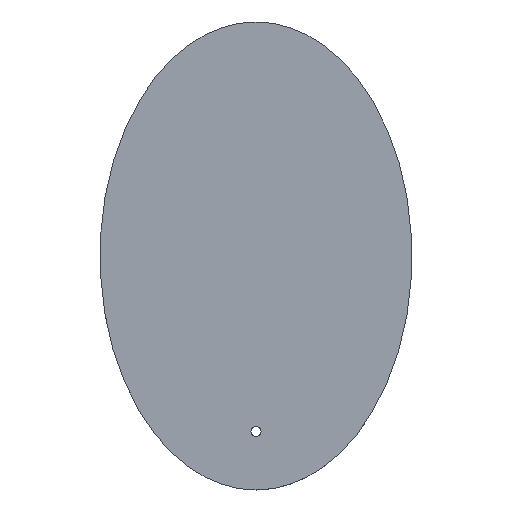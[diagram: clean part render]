
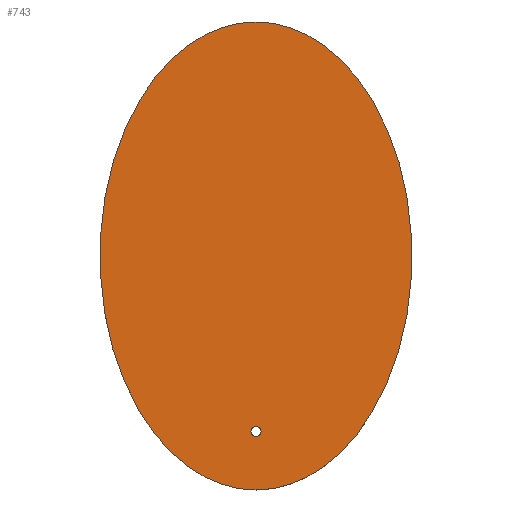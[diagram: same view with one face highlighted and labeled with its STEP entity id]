
A CAD part, top view. The second image highlights one B-rep face of the part: STEP entity #743.
In plain terms, the highlighted planar face has unit normal (0, 0, 1).
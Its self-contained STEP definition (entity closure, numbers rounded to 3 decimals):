
#12 = CARTESIAN_POINT ( 'NONE',  ( 0., 60., 0. ) ) ;
#64 = CARTESIAN_POINT ( 'NONE',  ( 0., -45., 0. ) ) ;
#121 = EDGE_LOOP ( 'NONE', ( #847, #277 ) ) ;
#136 = EDGE_LOOP ( 'NONE', ( #571, #222 ) ) ;
#147 = FACE_OUTER_BOUND ( 'NONE', #136, .T. ) ;
#156 = DIRECTION ( 'NONE',  ( 1., 0., 0. ) ) ;
#164 = DIRECTION ( 'NONE',  ( 0., 1., 0. ) ) ;
#194 = EDGE_CURVE ( 'NONE', #771, #794, #345, .T. ) ;
#206 = CARTESIAN_POINT ( 'NONE',  ( 0., 0., 0. ) ) ;
#211 = AXIS2_PLACEMENT_3D ( 'NONE', #206, #336, #156 ) ;
#220 = CARTESIAN_POINT ( 'NONE',  ( 0., -46.3, 0. ) ) ;
#222 = ORIENTED_EDGE ( 'NONE', *, *, #243, .T. ) ;
#224 = DIRECTION ( 'NONE',  ( 0., 0., -1. ) ) ;
#241 = DIRECTION ( 'NONE',  ( 0., 1., 0. ) ) ;
#243 = EDGE_CURVE ( 'NONE', #544, #406, #430, .T. ) ;
#245 = CARTESIAN_POINT ( 'NONE',  ( -80., 60., 0. ) ) ;
#270 = EDGE_CURVE ( 'NONE', #406, #544, #817, .T. ) ;
#277 = ORIENTED_EDGE ( 'NONE', *, *, #832, .T. ) ;
#301 = CARTESIAN_POINT ( 'NONE',  ( 0., -45., 0. ) ) ;
#309 = CARTESIAN_POINT ( 'NONE',  ( 0., 60., 0. ) ) ;
#336 = DIRECTION ( 'NONE',  ( 0., 0., 1. ) ) ;
#343 = CARTESIAN_POINT ( 'NONE',  ( 0., -60., 0. ) ) ;
#345 = CIRCLE ( 'NONE', #653, 1.3 ) ;
#353 = CARTESIAN_POINT ( 'NONE',  ( 80., -60., 0. ) ) ;
#389 = CARTESIAN_POINT ( 'NONE',  ( 0., -60., 0. ) ) ;
#406 = VERTEX_POINT ( 'NONE', #695 ) ;
#408 = PLANE ( 'NONE',  #211 ) ;
#430 =( BOUNDED_CURVE ( )  B_SPLINE_CURVE ( 3, ( #309, #245, #510, #389 ),
 .UNSPECIFIED., .F., .T. ) 
 B_SPLINE_CURVE_WITH_KNOTS ( ( 4, 4 ),
 ( 3.142, 6.283 ),
 .UNSPECIFIED. ) 
 CURVE ( )  GEOMETRIC_REPRESENTATION_ITEM ( )  RATIONAL_B_SPLINE_CURVE ( ( 1., 0.333, 0.333, 1. ) ) 
 REPRESENTATION_ITEM ( '' )  );
#510 = CARTESIAN_POINT ( 'NONE',  ( -80., -60., 0. ) ) ;
#515 = CIRCLE ( 'NONE', #820, 1.3 ) ;
#536 = FACE_BOUND ( 'NONE', #121, .T. ) ;
#544 = VERTEX_POINT ( 'NONE', #660 ) ;
#571 = ORIENTED_EDGE ( 'NONE', *, *, #270, .T. ) ;
#606 = CARTESIAN_POINT ( 'NONE',  ( 80., 60., 0. ) ) ;
#618 = CARTESIAN_POINT ( 'NONE',  ( 0., -43.7, 0. ) ) ;
#653 = AXIS2_PLACEMENT_3D ( 'NONE', #64, #770, #241 ) ;
#660 = CARTESIAN_POINT ( 'NONE',  ( 0., 60., 0. ) ) ;
#695 = CARTESIAN_POINT ( 'NONE',  ( 0., -60., 0. ) ) ;
#743 = ADVANCED_FACE ( 'NONE', ( #536, #147 ), #408, .T. ) ;
#770 = DIRECTION ( 'NONE',  ( 0., 0., -1. ) ) ;
#771 = VERTEX_POINT ( 'NONE', #618 ) ;
#794 = VERTEX_POINT ( 'NONE', #220 ) ;
#817 =( BOUNDED_CURVE ( )  B_SPLINE_CURVE ( 3, ( #343, #353, #606, #12 ),
 .UNSPECIFIED., .F., .T. ) 
 B_SPLINE_CURVE_WITH_KNOTS ( ( 4, 4 ),
 ( 0., 3.142 ),
 .UNSPECIFIED. ) 
 CURVE ( )  GEOMETRIC_REPRESENTATION_ITEM ( )  RATIONAL_B_SPLINE_CURVE ( ( 1., 0.333, 0.333, 1. ) ) 
 REPRESENTATION_ITEM ( '' )  );
#820 = AXIS2_PLACEMENT_3D ( 'NONE', #301, #224, #164 ) ;
#832 = EDGE_CURVE ( 'NONE', #794, #771, #515, .T. ) ;
#847 = ORIENTED_EDGE ( 'NONE', *, *, #194, .T. ) ;
